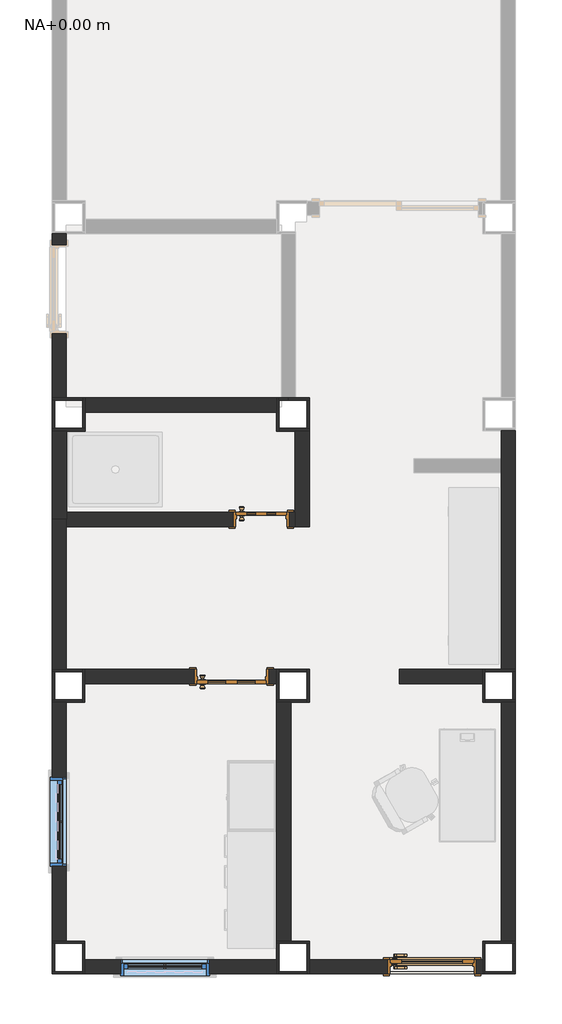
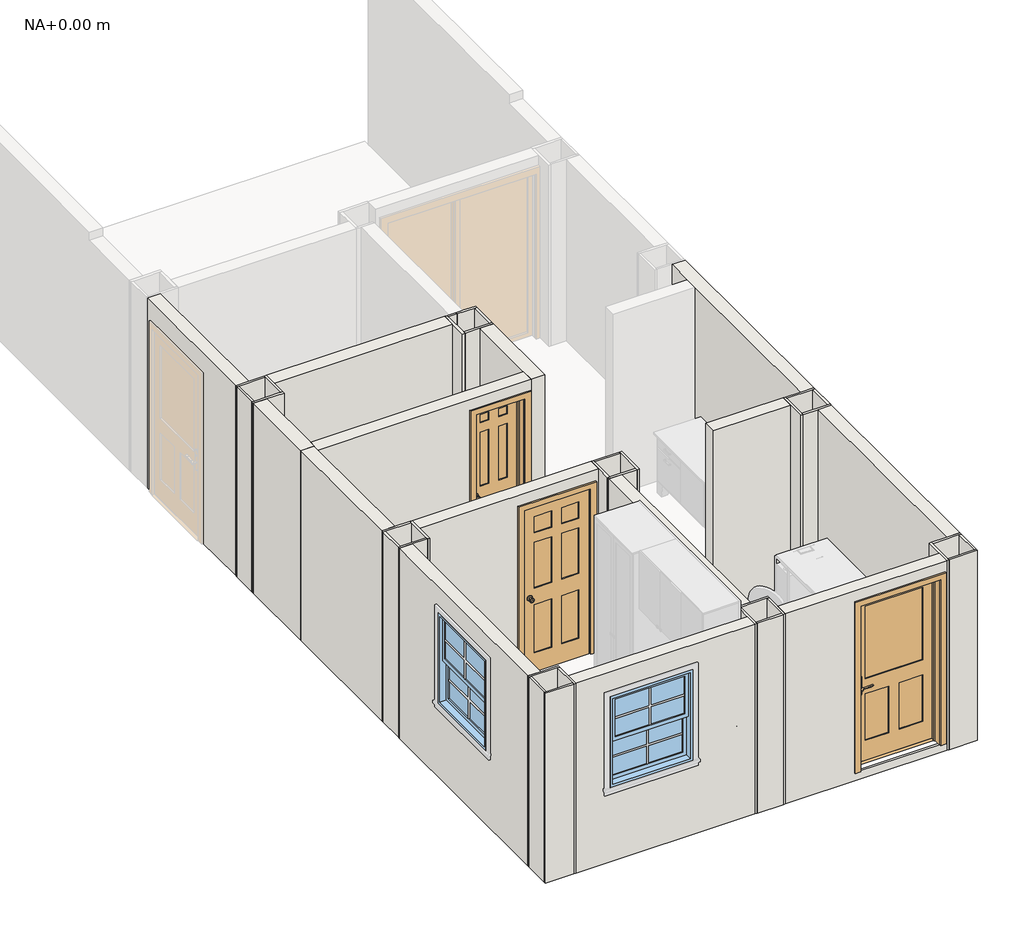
# One storey, part 1 of 2: 47 walls, 3 doors, 2 windows.
"""IFC4 building model written with IfcOpenShell, lengths in millimetres."""

from ifc_helpers import new_model, si_unit, frame, origin, origin_with_axes, place, context, project, spatial, polyline, outline, extrude, faceted_brep, transform, mapped, element, save
from components import door_750_x_2400mm_4532b83f, m_puerta_interior_simple_6_paneles_madera_550_x_2000mm_e46cda8c, m_puerta_interior_simple_6_paneles_madera_750_x_2000mm_028ab884, m_ventana_dos_hojas_500_x_800mm_5dca547a

model = new_model("IFC4")

# Units and contexts
model_context = context("Model", 3, world=origin())
ifc_project = project(units=[si_unit("LENGTHUNIT", "METRE", prefix="MILLI")], contexts=[model_context])

# Site, building, storey
site = spatial("IfcSite", under=ifc_project)
building = spatial("IfcBuilding", under=site)
storey = spatial("IfcBuildingStorey", under=building, Name="NA+0.00 m", Elevation=0.0)

# Doors
placement = place(None, origin())
door_750_x_2400mm_shape = door_750_x_2400mm_4532b83f(model_context)
element("IfcDoor", 1, ObjectType="M_Puerta-Exterior-Simple-Entrada-Cristal_plano_mitad-Revest_madera : 750 x 2400mm", at=placement, inside=storey, context=model_context, shape_type="MappedRepresentation", body=[
    mapped(door_750_x_2400mm_shape, transform((2987.3188918, -7084.0117862, 100.0), x_axis=(-1.0, 0.0, 0.0), y_axis=(0.0, -1.0, 0.0), z_axis=(0.0, 0.0, 1.0))),
])
m_puerta_interior_simple_6_paneles_madera_550_x_2000mm_shape = m_puerta_interior_simple_6_paneles_madera_550_x_2000mm_e46cda8c(model_context)
element("IfcDoor", 2, ObjectType="M_Puerta-Interior-Simple-6_paneles-Madera : 550 x 2000mm", at=placement, inside=storey, context=model_context, shape_type="MappedRepresentation", body=[
    mapped(m_puerta_interior_simple_6_paneles_madera_550_x_2000mm_shape, transform((1162.3188918, -2306.5117862, 100.0), x_axis=(1.0, 0.0, 0.0), y_axis=(0.0, 1.0, 0.0), z_axis=(0.0, 0.0, 1.0))),
])
m_puerta_interior_simple_6_paneles_madera_750_x_2000mm_shape = m_puerta_interior_simple_6_paneles_madera_750_x_2000mm_028ab884(model_context)
element("IfcDoor", 3, ObjectType="M_Puerta-Interior-Simple-6_paneles-Madera : 750 x 2000mm", at=placement, inside=storey, context=model_context, shape_type="MappedRepresentation", body=[
    mapped(m_puerta_interior_simple_6_paneles_madera_750_x_2000mm_shape, transform((844.8188918, -3990.3617862, 100.0), x_axis=(1.0, 0.0, 0.0), y_axis=(0.0, 1.0, 0.0), z_axis=(0.0, 0.0, 1.0))),
])

# Walls
element("IfcWall", 4, ObjectType="HECM - Muro Pintura Blanca 2 caras", at=placement, inside=storey, context=model_context, shape_type="Brep", body=[
    faceted_brep([(-922.6811082, -3912.1867862, 0.0), (-922.6811082, -2387.1867862, 0.0), (-922.6811082, -2309.6867862, 0.0), (-922.6811082, -2309.6867862, 2300.0), (-922.6811082, -2387.1867862, 2300.0), (-922.6811082, -3912.1867862, 2300.0), (-1072.6811082, -3912.1867862, 0.0), (-1072.6811082, -3912.1867862, 2300.0), (-1072.6811082, -2309.6867862, 2300.0), (-1072.6811082, -2309.6867862, 0.0)], [[[0, 1, 2, 3, 4, 5]], [[6, 7, 8, 9]], [[2, 1, 0, 6, 9]], [[3, 2, 9, 8]], [[5, 4, 3, 8, 7]], [[0, 5, 7, 6]]]),
])
element("IfcWall", 5, ObjectType="HECM - Muro Pintura Blanca 2 caras", at=placement, inside=storey, context=model_context, shape_type="SweptSolid", body=[
    extrude(outline(polyline([(-6812.1867862, 0.0), (-6812.1867862, 2300.0), (-4262.1867862, 2300.0), (-4262.1867862, 0.0), (-6812.1867862, 0.0)]), holes=[polyline([(-6012.1867862, 2014.4), (-6012.1867862, 914.4), (-5062.1867862, 914.4), (-5062.1867862, 2014.4), (-6012.1867862, 2014.4)])]), frame((-1072.6811082, 0.0, 0.0), z_axis=(1.0, 0.0, 0.0), x_axis=(0.0, 1.0, 0.0)), (0.0, 0.0, 1.0), 150.0),
])
element("IfcWall", 6, ObjectType="HECM - Muro Pintura Blanca 2 caras", at=placement, inside=storey, context=model_context, shape_type="Brep", body=[
    faceted_brep([(3877.3188918, -3912.1867862, 0.0), (3877.3188918, -1362.1867862, 0.0), (3877.3188918, -1362.1867862, 2300.0), (3877.3188918, -3912.1867862, 2300.0), (3727.3188918, -3912.1867862, 0.0), (3727.3188918, -3912.1867862, 2300.0), (3727.3188918, -1814.6867862, 2300.0), (3727.3188918, -1664.6867862, 2300.0), (3727.3188918, -1362.1867862, 2300.0), (3727.3188918, -1362.1867862, 0.0), (3727.3188918, -1664.6867862, 0.0), (3727.3188918, -1814.6867862, 0.0)], [[[0, 1, 2, 3]], [[4, 5, 6, 7, 8, 9, 10, 11]], [[1, 0, 4, 11, 10, 9]], [[3, 2, 8, 7, 6, 5]], [[0, 3, 5, 4]], [[2, 1, 9, 8]]]),
])
element("IfcWall", 7, ObjectType="HECM - Muro Pintura Blanca 2 caras", at=placement, inside=storey, context=model_context, shape_type="SweptSolid", body=[
    extrude(outline(polyline([(3877.3188918, -4262.1867862), (3877.3188918, -6812.1867862), (3727.3188918, -6812.1867862), (3727.3188918, -4262.1867862), (3877.3188918, -4262.1867862)])), origin_with_axes(), (0.0, 0.0, 1.0), 2300.0),
])
element("IfcWall", 8, ObjectType="HECM - Muro Pintura Blanca 2 caras", at=placement, inside=storey, context=model_context, shape_type="SweptSolid", body=[
    extrude(outline(polyline([(1327.3188918, -6812.1867862), (1327.3188918, -4262.1867862), (1477.3188918, -4262.1867862), (1477.3188918, -6812.1867862), (1327.3188918, -6812.1867862)])), origin_with_axes(), (0.0, 0.0, 1.0), 2300.0),
])
element("IfcWall", 9, ObjectType="HECM - Muro Pintura Blanca 2 caras", at=placement, inside=storey, context=model_context, shape_type="SweptSolid", body=[
    extrude(outline(polyline([(0.0, -722.6811082), (0.0, 1327.3188918), (2300.0, 1327.3188918), (2300.0, -722.6811082), (0.0, -722.6811082)]), holes=[polyline([(2014.4, 607.3188918), (914.4, 607.3188918), (914.4, -342.6811082), (2014.4, -342.6811082), (2014.4, 607.3188918)])]), frame((0.0, -7162.1867862, 0.0), z_axis=(0.0, 1.0, 0.0), x_axis=(0.0, 0.0, 1.0)), (0.0, 0.0, 1.0), 150.0),
])
element("IfcWall", 10, ObjectType="HECM - Muro Pintura Blanca 2 caras", at=placement, inside=storey, context=model_context, shape_type="Brep", body=[
    faceted_brep([(1677.3188918, -7162.1867862, 0.0), (3527.3188918, -7162.1867862, 0.0), (3527.3188918, -7162.1867862, 2300.0), (1677.3188918, -7162.1867862, 2300.0), (2512.3188918, -7162.1867862, 100.0), (2512.3188918, -7162.1867862, 2125.0), (3462.3188918, -7162.1867862, 2125.0), (3462.3188918, -7162.1867862, 100.0), (1677.3188918, -7012.1867862, 2300.0), (3527.3188918, -7012.1867862, 2300.0), (3527.3188918, -7012.1867862, 100.0), (3527.3188918, -7012.1867862, 0.0), (3462.3188918, -7012.1867862, 0.0), (3462.3188918, -7012.1867862, 100.0), (3462.3188918, -7012.1867862, 2125.0), (2512.3188918, -7012.1867862, 2125.0), (2512.3188918, -7012.1867862, 100.0), (2512.3188918, -7012.1867862, 0.0), (1677.3188918, -7012.1867862, 0.0), (1677.3188918, -7012.1867862, 100.0), (2512.3188918, -7137.1867862, 0.0), (3462.3188918, -7137.1867862, 0.0), (2512.3188918, -7137.1867862, 100.0), (3462.3188918, -7137.1867862, 100.0)], [[[0, 1, 2, 3], [4, 5, 6, 7]], [[8, 9, 10, 11, 12, 13, 14, 15, 16, 17, 18, 19]], [[1, 0, 18, 17, 20, 21, 12, 11]], [[3, 2, 9, 8]], [[5, 4, 22, 20, 17, 16, 15]], [[6, 5, 15, 14]], [[7, 6, 14, 13, 12, 21, 23]], [[4, 7, 23, 22]], [[0, 3, 8, 19, 18]], [[2, 1, 11, 10, 9]], [[23, 21, 20, 22]]]),
])
element("IfcWall", 11, ObjectType="HECM - Muro Pintura Blanca 2 caras (E)", at=placement, inside=storey, context=model_context, shape_type="SweptSolid", body=[
    extrude(outline(polyline([(2639.8188918, -3912.1867862), (3527.3188918, -3912.1867862), (3527.3188918, -4062.1867862), (2639.8188918, -4062.1867862), (2639.8188918, -3912.1867862)])), origin_with_axes(), (0.0, 0.0, 1.0), 2300.0),
])
element("IfcWall", 12, ObjectType="HECM - Muro Pintura Blanca 2 caras", at=placement, inside=storey, context=model_context, shape_type="Brep", body=[
    faceted_brep([(-722.6811082, -3912.1867862, 2300.0), (1327.3188918, -3912.1867862, 2300.0), (1327.3188918, -3912.1867862, 100.0), (1327.3188918, -3912.1867862, 0.0), (1252.3188918, -3912.1867862, 0.0), (1252.3188918, -3912.1867862, 100.0), (1244.8188918, -3912.1867862, 100.0), (1244.8188918, -3912.1867862, 2125.0), (444.8188918, -3912.1867862, 2125.0), (444.8188918, -3912.1867862, 100.0), (402.3188918, -3912.1867862, 100.0), (402.3188918, -3912.1867862, 0.0), (-722.6811082, -3912.1867862, 0.0), (-722.6811082, -3912.1867862, 100.0), (1327.3188918, -4062.1867862, 2300.0), (-722.6811082, -4062.1867862, 2300.0), (-722.6811082, -4062.1867862, 100.0), (-722.6811082, -4062.1867862, 0.0), (402.3188918, -4062.1867862, 0.0), (402.3188918, -4062.1867862, 100.0), (444.8188918, -4062.1867862, 100.0), (444.8188918, -4062.1867862, 2125.0), (1244.8188918, -4062.1867862, 2125.0), (1244.8188918, -4062.1867862, 100.0), (1252.3188918, -4062.1867862, 100.0), (1252.3188918, -4062.1867862, 0.0), (1327.3188918, -4062.1867862, 0.0), (1327.3188918, -4062.1867862, 100.0)], [[[0, 1, 2, 3, 4, 5, 6, 7, 8, 9, 10, 11, 12, 13]], [[14, 15, 16, 17, 18, 19, 20, 21, 22, 23, 24, 25, 26, 27]], [[17, 12, 11, 18]], [[3, 26, 25, 4]], [[1, 0, 15, 14]], [[7, 6, 23, 22]], [[8, 7, 22, 21]], [[9, 8, 21, 20]], [[12, 17, 16, 15, 0, 13]], [[1, 14, 27, 26, 3, 2]], [[19, 10, 9, 20]], [[5, 24, 23, 6]], [[10, 19, 18, 11]], [[24, 5, 4, 25]]]),
])
element("IfcWall", 13, ObjectType="HECM - Muro Pintura Blanca - enchape baño", at=placement, inside=storey, context=model_context, shape_type="Brep", body=[
    faceted_brep([(1522.3188918, -1367.1867862, 0.0), (1522.3188918, -2387.1867862, 0.0), (1522.3188918, -2387.1867862, 100.0), (1522.3188918, -2387.1867862, 2300.0), (1522.3188918, -2232.1867862, 2300.0), (1522.3188918, -1367.1867862, 2300.0), (1677.3188918, -1367.1867862, 0.0), (1677.3188918, -1367.1867862, 2300.0), (1677.3188918, -2387.1867862, 2300.0), (1677.3188918, -2387.1867862, 0.0)], [[[0, 1, 2, 3, 4, 5]], [[6, 7, 8, 9]], [[1, 0, 6, 9]], [[5, 4, 3, 8, 7]], [[3, 2, 1, 9, 8]], [[0, 5, 7, 6]]]),
])
element("IfcWall", 14, ObjectType="HECM - Muro Pintura Blanca - enchape baño", at=placement, inside=storey, context=model_context, shape_type="Brep", body=[
    faceted_brep([(-917.6811082, -2232.1867862, 2300.0), (1522.3188918, -2232.1867862, 2300.0), (1522.3188918, -2232.1867862, 100.0), (1462.3188918, -2232.1867862, 100.0), (1462.3188918, -2232.1867862, 2125.0), (862.3188918, -2232.1867862, 2125.0), (862.3188918, -2232.1867862, 100.0), (677.3188918, -2232.1867862, 100.0), (677.3188918, -2232.1867862, 0.0), (-917.6811082, -2232.1867862, 0.0), (-922.6811082, -2387.1867862, 2300.0), (-922.6811082, -2387.1867862, 0.0), (-917.6811082, -2387.1867862, 0.0), (677.3188918, -2387.1867862, 0.0), (677.3188918, -2387.1867862, 100.0), (862.3188918, -2387.1867862, 100.0), (862.3188918, -2387.1867862, 2125.0), (1462.3188918, -2387.1867862, 2125.0), (1462.3188918, -2387.1867862, 100.0), (1522.3188918, -2387.1867862, 100.0), (1522.3188918, -2387.1867862, 2300.0), (-922.6811082, -2309.6867862, 0.0), (-917.6811082, -2309.6867862, 0.0), (-917.6811082, -2309.6867862, 2300.0), (-922.6811082, -2309.6867862, 2300.0)], [[[0, 1, 2, 3, 4, 5, 6, 7, 8, 9]], [[10, 11, 12, 13, 14, 15, 16, 17, 18, 19, 20]], [[11, 21, 22, 9, 8, 13, 12]], [[1, 0, 23, 24, 10, 20]], [[1, 20, 19, 2]], [[17, 4, 3, 18]], [[4, 17, 16, 5]], [[5, 16, 15, 6]], [[3, 2, 19, 18]], [[14, 7, 6, 15]], [[7, 14, 13, 8]], [[0, 9, 22, 23]], [[22, 21, 24, 23]], [[11, 10, 24, 21]]]),
])
element("IfcWall", 15, ObjectType="HECM - Acabado de pintura blanca", at=placement, inside=storey, context=model_context, shape_type="Brep", body=[
    faceted_brep([(1452.3188918, -1037.1867862, 0.0), (1652.3188918, -1037.1867862, 0.0), (1677.3188918, -1037.1867862, 0.0), (1677.3188918, -1037.1867862, 2300.0), (1652.3188918, -1037.1867862, 2300.0), (1452.3188918, -1037.1867862, 2300.0), (1452.3188918, -1012.1867862, 0.0), (1452.3188918, -1012.1867862, 2300.0), (1527.3188918, -1012.1867862, 2300.0), (1677.3188918, -1012.1867862, 2300.0), (1677.3188918, -1012.1867862, 0.0), (1527.3188918, -1012.1867862, 0.0)], [[[0, 1, 2, 3, 4, 5]], [[6, 7, 8, 9, 10, 11]], [[2, 1, 0, 6, 11, 10]], [[5, 4, 3, 9, 8, 7]], [[0, 5, 7, 6]], [[3, 2, 10, 9]]]),
])
element("IfcWall", 16, ObjectType="HECM - Acabado de pintura blanca", at=placement, inside=storey, context=model_context, shape_type="SweptSolid", body=[
    extrude(outline(polyline([(1652.3188918, -1337.1867862), (1652.3188918, -1037.1867862), (1677.3188918, -1037.1867862), (1677.3188918, -1337.1867862), (1652.3188918, -1337.1867862)])), origin_with_axes(), (0.0, 0.0, 1.0), 2300.0),
])
element("IfcWall", 17, ObjectType="HECM - Acabado de pintura blanca", at=placement, inside=storey, context=model_context, shape_type="Brep", body=[
    faceted_brep([(-1072.6811082, -3937.1867862, 0.0), (-1047.6811082, -3937.1867862, 0.0), (-747.6811082, -3937.1867862, 0.0), (-747.6811082, -3937.1867862, 2300.0), (-1047.6811082, -3937.1867862, 2300.0), (-1072.6811082, -3937.1867862, 2300.0), (-1072.6811082, -3912.1867862, 0.0), (-1072.6811082, -3912.1867862, 2300.0), (-922.6811082, -3912.1867862, 2300.0), (-747.6811082, -3912.1867862, 2300.0), (-747.6811082, -3912.1867862, 0.0), (-922.6811082, -3912.1867862, 0.0)], [[[0, 1, 2, 3, 4, 5]], [[6, 7, 8, 9, 10, 11]], [[2, 1, 0, 6, 11, 10]], [[5, 4, 3, 9, 8, 7]], [[0, 5, 7, 6]], [[3, 2, 10, 9]]]),
])
element("IfcWall", 18, ObjectType="HECM - Acabado de pintura blanca", at=placement, inside=storey, context=model_context, shape_type="Brep", body=[
    faceted_brep([(-747.6811082, -3912.1867862, 0.0), (-747.6811082, -3937.1867862, 0.0), (-747.6811082, -4237.1867862, 0.0), (-747.6811082, -4262.1867862, 0.0), (-747.6811082, -4262.1867862, 2300.0), (-747.6811082, -4237.1867862, 2300.0), (-747.6811082, -3937.1867862, 2300.0), (-747.6811082, -3912.1867862, 2300.0), (-722.6811082, -3912.1867862, 0.0), (-722.6811082, -3912.1867862, 2300.0), (-722.6811082, -4062.1867862, 2300.0), (-722.6811082, -4262.1867862, 2300.0), (-722.6811082, -4262.1867862, 0.0), (-722.6811082, -4062.1867862, 0.0)], [[[0, 1, 2, 3, 4, 5, 6, 7]], [[8, 9, 10, 11, 12, 13]], [[3, 2, 1, 0, 8, 13, 12]], [[7, 6, 5, 4, 11, 10, 9]], [[0, 7, 9, 8]], [[4, 3, 12, 11]]]),
])
element("IfcWall", 19, ObjectType="HECM - Acabado de pintura blanca", at=placement, inside=storey, context=model_context, shape_type="Brep", body=[
    faceted_brep([(-747.6811082, -4237.1867862, 0.0), (-1047.6811082, -4237.1867862, 0.0), (-1072.6811082, -4237.1867862, 0.0), (-1072.6811082, -4237.1867862, 2300.0), (-1047.6811082, -4237.1867862, 2300.0), (-747.6811082, -4237.1867862, 2300.0), (-747.6811082, -4262.1867862, 0.0), (-747.6811082, -4262.1867862, 2300.0), (-922.6811082, -4262.1867862, 2300.0), (-1072.6811082, -4262.1867862, 2300.0), (-1072.6811082, -4262.1867862, 0.0), (-922.6811082, -4262.1867862, 0.0)], [[[0, 1, 2, 3, 4, 5]], [[6, 7, 8, 9, 10, 11]], [[2, 1, 0, 6, 11, 10]], [[5, 4, 3, 9, 8, 7]], [[3, 2, 10, 9]], [[0, 5, 7, 6]]]),
])
element("IfcWall", 20, ObjectType="HECM - Acabado de pintura blanca", at=placement, inside=storey, context=model_context, shape_type="Brep", body=[
    faceted_brep([(-1072.6811082, -6837.1867862, 0.0), (-1047.6811082, -6837.1867862, 0.0), (-747.6811082, -6837.1867862, 0.0), (-722.6811082, -6837.1867862, 0.0), (-722.6811082, -6837.1867862, 2300.0), (-747.6811082, -6837.1867862, 2300.0), (-1047.6811082, -6837.1867862, 2300.0), (-1072.6811082, -6837.1867862, 2300.0), (-1072.6811082, -6812.1867862, 0.0), (-1072.6811082, -6812.1867862, 2300.0), (-922.6811082, -6812.1867862, 2300.0), (-722.6811082, -6812.1867862, 2300.0), (-722.6811082, -6812.1867862, 0.0), (-922.6811082, -6812.1867862, 0.0)], [[[0, 1, 2, 3, 4, 5, 6, 7]], [[8, 9, 10, 11, 12, 13]], [[3, 2, 1, 0, 8, 13, 12]], [[7, 6, 5, 4, 11, 10, 9]], [[0, 7, 9, 8]], [[4, 3, 12, 11]]]),
])
element("IfcWall", 21, ObjectType="HECM - Acabado de pintura blanca", at=placement, inside=storey, context=model_context, shape_type="Brep", body=[
    faceted_brep([(-747.6811082, -6837.1867862, 0.0), (-747.6811082, -7137.1867862, 0.0), (-747.6811082, -7162.1867862, 0.0), (-747.6811082, -7162.1867862, 2300.0), (-747.6811082, -7137.1867862, 2300.0), (-747.6811082, -6837.1867862, 2300.0), (-722.6811082, -6837.1867862, 0.0), (-722.6811082, -6837.1867862, 2300.0), (-722.6811082, -7012.1867862, 2300.0), (-722.6811082, -7162.1867862, 2300.0), (-722.6811082, -7162.1867862, 0.0), (-722.6811082, -7012.1867862, 0.0)], [[[0, 1, 2, 3, 4, 5]], [[6, 7, 8, 9, 10, 11]], [[2, 1, 0, 6, 11, 10]], [[5, 4, 3, 9, 8, 7]], [[3, 2, 10, 9]], [[0, 5, 7, 6]]]),
])
element("IfcWall", 22, ObjectType="HECM - Acabado de pintura blanca", at=placement, inside=storey, context=model_context, shape_type="Brep", body=[
    faceted_brep([(1352.3188918, -7162.1867862, 0.0), (1352.3188918, -7137.1867862, 0.0), (1352.3188918, -6837.1867862, 0.0), (1352.3188918, -6837.1867862, 2300.0), (1352.3188918, -7137.1867862, 2300.0), (1352.3188918, -7162.1867862, 2300.0), (1327.3188918, -7162.1867862, 0.0), (1327.3188918, -7162.1867862, 2300.0), (1327.3188918, -7012.1867862, 2300.0), (1327.3188918, -6837.1867862, 2300.0), (1327.3188918, -6837.1867862, 0.0), (1327.3188918, -7012.1867862, 0.0)], [[[0, 1, 2, 3, 4, 5]], [[6, 7, 8, 9, 10, 11]], [[2, 1, 0, 6, 11, 10]], [[5, 4, 3, 9, 8, 7]], [[0, 5, 7, 6]], [[3, 2, 10, 9]]]),
])
element("IfcWall", 23, ObjectType="HECM - Acabado de pintura blanca", at=placement, inside=storey, context=model_context, shape_type="Brep", body=[
    faceted_brep([(1327.3188918, -6837.1867862, 0.0), (1352.3188918, -6837.1867862, 0.0), (1652.3188918, -6837.1867862, 0.0), (1677.3188918, -6837.1867862, 0.0), (1677.3188918, -6837.1867862, 2300.0), (1652.3188918, -6837.1867862, 2300.0), (1352.3188918, -6837.1867862, 2300.0), (1327.3188918, -6837.1867862, 2300.0), (1327.3188918, -6812.1867862, 0.0), (1327.3188918, -6812.1867862, 2300.0), (1477.3188918, -6812.1867862, 2300.0), (1677.3188918, -6812.1867862, 2300.0), (1677.3188918, -6812.1867862, 0.0), (1477.3188918, -6812.1867862, 0.0)], [[[0, 1, 2, 3, 4, 5, 6, 7]], [[8, 9, 10, 11, 12, 13]], [[3, 2, 1, 0, 8, 13, 12]], [[7, 6, 5, 4, 11, 10, 9]], [[0, 7, 9, 8]], [[4, 3, 12, 11]]]),
])
element("IfcWall", 24, ObjectType="HECM - Acabado de pintura blanca", at=placement, inside=storey, context=model_context, shape_type="Brep", body=[
    faceted_brep([(1652.3188918, -6837.1867862, 0.0), (1652.3188918, -7137.1867862, 0.0), (1652.3188918, -7162.1867862, 0.0), (1652.3188918, -7162.1867862, 2300.0), (1652.3188918, -7137.1867862, 2300.0), (1652.3188918, -6837.1867862, 2300.0), (1677.3188918, -6837.1867862, 0.0), (1677.3188918, -6837.1867862, 2300.0), (1677.3188918, -7012.1867862, 2300.0), (1677.3188918, -7162.1867862, 2300.0), (1677.3188918, -7162.1867862, 0.0), (1677.3188918, -7012.1867862, 0.0)], [[[0, 1, 2, 3, 4, 5]], [[6, 7, 8, 9, 10, 11]], [[2, 1, 0, 6, 11, 10]], [[5, 4, 3, 9, 8, 7]], [[3, 2, 10, 9]], [[0, 5, 7, 6]]]),
])
element("IfcWall", 25, ObjectType="HECM - Acabado de pintura blanca", at=placement, inside=storey, context=model_context, shape_type="Brep", body=[
    faceted_brep([(3552.3188918, -7162.1867862, 0.0), (3552.3188918, -7137.1867862, 0.0), (3552.3188918, -6837.1867862, 0.0), (3552.3188918, -6812.1867862, 0.0), (3552.3188918, -6812.1867862, 2300.0), (3552.3188918, -6837.1867862, 2300.0), (3552.3188918, -7137.1867862, 2300.0), (3552.3188918, -7162.1867862, 2300.0), (3527.3188918, -7162.1867862, 0.0), (3527.3188918, -7162.1867862, 2300.0), (3527.3188918, -7012.1867862, 2300.0), (3527.3188918, -6812.1867862, 2300.0), (3527.3188918, -6812.1867862, 0.0), (3527.3188918, -7012.1867862, 0.0)], [[[0, 1, 2, 3, 4, 5, 6, 7]], [[8, 9, 10, 11, 12, 13]], [[3, 2, 1, 0, 8, 13, 12]], [[7, 6, 5, 4, 11, 10, 9]], [[0, 7, 9, 8]], [[4, 3, 12, 11]]]),
])
element("IfcWall", 26, ObjectType="HECM - Acabado de pintura blanca", at=placement, inside=storey, context=model_context, shape_type="Brep", body=[
    faceted_brep([(3552.3188918, -6837.1867862, 0.0), (3852.3188918, -6837.1867862, 0.0), (3877.3188918, -6837.1867862, 0.0), (3877.3188918, -6837.1867862, 2300.0), (3852.3188918, -6837.1867862, 2300.0), (3552.3188918, -6837.1867862, 2300.0), (3552.3188918, -6812.1867862, 0.0), (3552.3188918, -6812.1867862, 2300.0), (3727.3188918, -6812.1867862, 2300.0), (3877.3188918, -6812.1867862, 2300.0), (3877.3188918, -6812.1867862, 0.0), (3727.3188918, -6812.1867862, 0.0)], [[[0, 1, 2, 3, 4, 5]], [[6, 7, 8, 9, 10, 11]], [[2, 1, 0, 6, 11, 10]], [[5, 4, 3, 9, 8, 7]], [[3, 2, 10, 9]], [[0, 5, 7, 6]]]),
])
element("IfcWall", 27, ObjectType="HECM - Acabado de pintura blanca", at=placement, inside=storey, context=model_context, shape_type="Brep", body=[
    faceted_brep([(1352.3188918, -4237.1867862, 0.0), (1352.3188918, -3937.1867862, 0.0), (1352.3188918, -3912.1867862, 0.0), (1352.3188918, -3912.1867862, 2300.0), (1352.3188918, -3937.1867862, 2300.0), (1352.3188918, -4237.1867862, 2300.0), (1327.3188918, -4237.1867862, 0.0), (1327.3188918, -4237.1867862, 2300.0), (1327.3188918, -4062.1867862, 2300.0), (1327.3188918, -3912.1867862, 2300.0), (1327.3188918, -3912.1867862, 0.0), (1327.3188918, -4062.1867862, 0.0)], [[[0, 1, 2, 3, 4, 5]], [[6, 7, 8, 9, 10, 11]], [[2, 1, 0, 6, 11, 10]], [[5, 4, 3, 9, 8, 7]], [[3, 2, 10, 9]], [[0, 5, 7, 6]]]),
])
element("IfcWall", 28, ObjectType="HECM - Acabado de pintura blanca", at=placement, inside=storey, context=model_context, shape_type="SweptSolid", body=[
    extrude(outline(polyline([(1652.3188918, -3937.1867862), (1352.3188918, -3937.1867862), (1352.3188918, -3912.1867862), (1652.3188918, -3912.1867862), (1652.3188918, -3937.1867862)])), origin_with_axes(), (0.0, 0.0, 1.0), 2300.0),
])
element("IfcWall", 29, ObjectType="HECM - Acabado de pintura blanca", at=placement, inside=storey, context=model_context, shape_type="Brep", body=[
    faceted_brep([(1652.3188918, -3912.1867862, 0.0), (1652.3188918, -3937.1867862, 0.0), (1652.3188918, -4237.1867862, 0.0), (1652.3188918, -4262.1867862, 0.0), (1652.3188918, -4262.1867862, 2300.0), (1652.3188918, -4237.1867862, 2300.0), (1652.3188918, -3937.1867862, 2300.0), (1652.3188918, -3912.1867862, 2300.0), (1677.3188918, -3912.1867862, 0.0), (1677.3188918, -3912.1867862, 2300.0), (1677.3188918, -4262.1867862, 2300.0), (1677.3188918, -4262.1867862, 0.0)], [[[0, 1, 2, 3, 4, 5, 6, 7]], [[8, 9, 10, 11]], [[3, 2, 1, 0, 8, 11]], [[7, 6, 5, 4, 10, 9]], [[0, 7, 9, 8]], [[4, 3, 11, 10]]]),
])
element("IfcWall", 30, ObjectType="HECM - Acabado de pintura blanca", at=placement, inside=storey, context=model_context, shape_type="Brep", body=[
    faceted_brep([(1652.3188918, -4237.1867862, 0.0), (1352.3188918, -4237.1867862, 0.0), (1327.3188918, -4237.1867862, 0.0), (1327.3188918, -4237.1867862, 2300.0), (1352.3188918, -4237.1867862, 2300.0), (1652.3188918, -4237.1867862, 2300.0), (1652.3188918, -4262.1867862, 0.0), (1652.3188918, -4262.1867862, 2300.0), (1477.3188918, -4262.1867862, 2300.0), (1327.3188918, -4262.1867862, 2300.0), (1327.3188918, -4262.1867862, 0.0), (1477.3188918, -4262.1867862, 0.0)], [[[0, 1, 2, 3, 4, 5]], [[6, 7, 8, 9, 10, 11]], [[2, 1, 0, 6, 11, 10]], [[5, 4, 3, 9, 8, 7]], [[3, 2, 10, 9]], [[0, 5, 7, 6]]]),
])
element("IfcWall", 31, ObjectType="HECM - Acabado de pintura blanca", at=placement, inside=storey, context=model_context, shape_type="Brep", body=[
    faceted_brep([(3552.3188918, -3937.1867862, 0.0), (3852.3188918, -3937.1867862, 0.0), (3877.3188918, -3937.1867862, 0.0), (3877.3188918, -3937.1867862, 2300.0), (3852.3188918, -3937.1867862, 2300.0), (3552.3188918, -3937.1867862, 2300.0), (3552.3188918, -3912.1867862, 0.0), (3552.3188918, -3912.1867862, 2300.0), (3727.3188918, -3912.1867862, 2300.0), (3877.3188918, -3912.1867862, 2300.0), (3877.3188918, -3912.1867862, 0.0), (3727.3188918, -3912.1867862, 0.0)], [[[0, 1, 2, 3, 4, 5]], [[6, 7, 8, 9, 10, 11]], [[2, 1, 0, 6, 11, 10]], [[5, 4, 3, 9, 8, 7]], [[3, 2, 10, 9]], [[0, 5, 7, 6]]]),
])
element("IfcWall", 32, ObjectType="HECM - Acabado de pintura blanca", at=placement, inside=storey, context=model_context, shape_type="Brep", body=[
    faceted_brep([(3527.3188918, -3912.1867862, 0.0), (3527.3188918, -4062.1867862, 0.0), (3527.3188918, -4262.1867862, 0.0), (3527.3188918, -4262.1867862, 2300.0), (3527.3188918, -4062.1867862, 2300.0), (3527.3188918, -3912.1867862, 2300.0), (3552.3188918, -3912.1867862, 0.0), (3552.3188918, -3912.1867862, 2300.0), (3552.3188918, -3937.1867862, 2300.0), (3552.3188918, -4237.1867862, 2300.0), (3552.3188918, -4262.1867862, 2300.0), (3552.3188918, -4262.1867862, 0.0), (3552.3188918, -4237.1867862, 0.0), (3552.3188918, -3937.1867862, 0.0)], [[[0, 1, 2, 3, 4, 5]], [[6, 7, 8, 9, 10, 11, 12, 13]], [[2, 1, 0, 6, 13, 12, 11]], [[5, 4, 3, 10, 9, 8, 7]], [[0, 5, 7, 6]], [[3, 2, 11, 10]]]),
])
element("IfcWall", 33, ObjectType="HECM - Acabado de pintura blanca", at=placement, inside=storey, context=model_context, shape_type="Brep", body=[
    faceted_brep([(3552.3188918, -4262.1867862, 0.0), (3727.3188918, -4262.1867862, 0.0), (3877.3188918, -4262.1867862, 0.0), (3877.3188918, -4262.1867862, 2300.0), (3727.3188918, -4262.1867862, 2300.0), (3552.3188918, -4262.1867862, 2300.0), (3552.3188918, -4237.1867862, 0.0), (3552.3188918, -4237.1867862, 2300.0), (3852.3188918, -4237.1867862, 2300.0), (3877.3188918, -4237.1867862, 2300.0), (3877.3188918, -4237.1867862, 0.0), (3852.3188918, -4237.1867862, 0.0)], [[[0, 1, 2, 3, 4, 5]], [[6, 7, 8, 9, 10, 11]], [[2, 1, 0, 6, 11, 10]], [[5, 4, 3, 9, 8, 7]], [[3, 2, 10, 9]], [[0, 5, 7, 6]]]),
])
element("IfcWall", 34, ObjectType="HECM - Muro Fachada - Pintura Blanca", at=placement, inside=storey, context=model_context, shape_type="SweptSolid", body=[
    extrude(outline(polyline([(-1012.1867862, 2300.0), (737.8132138, 2300.0), (737.8132138, 0.0), (622.8132138, 0.0), (622.8132138, 2025.0), (-327.1867862, 2025.0), (-327.1867862, 0.0), (-1012.1867862, 0.0), (-1012.1867862, 2300.0)])), frame((-1072.6811082, 0.0, 0.0), z_axis=(1.0, 0.0, 0.0), x_axis=(0.0, 1.0, 0.0)), (0.0, 0.0, 1.0), 150.0),
])
element("IfcWall", 35, ObjectType="HECM - Muro Pintura Blanca - enchape baño", at=placement, inside=storey, context=model_context, shape_type="SweptSolid", body=[
    extrude(outline(polyline([(1322.3188918, -1167.1867862), (-717.6811082, -1167.1867862), (-717.6811082, -1012.1867862), (1322.3188918, -1012.1867862), (1322.3188918, -1167.1867862)])), origin_with_axes(), (0.0, 0.0, 1.0), 2300.0),
])
element("IfcWall", 36, ObjectType="HECM - Acabado de pintura blanca", at=placement, inside=storey, context=model_context, shape_type="SweptSolid", body=[
    extrude(outline(polyline([(3877.3188918, -3937.1867862), (3877.3188918, -4237.1867862), (3852.3188918, -4237.1867862), (3852.3188918, -3937.1867862), (3877.3188918, -3937.1867862)])), origin_with_axes(), (0.0, 0.0, 1.0), 2300.0),
])
element("IfcWall", 37, ObjectType="HECM - Acabado de pintura blanca", at=placement, inside=storey, context=model_context, shape_type="Brep", body=[
    faceted_brep([(3552.3188918, -7162.1867862, 0.0), (3877.3188918, -7162.1867862, 0.0), (3877.3188918, -7162.1867862, 2300.0), (3552.3188918, -7162.1867862, 2300.0), (3552.3188918, -7137.1867862, 0.0), (3552.3188918, -7137.1867862, 2300.0), (3852.3188918, -7137.1867862, 2300.0), (3877.3188918, -7137.1867862, 2300.0), (3877.3188918, -7137.1867862, 0.0), (3852.3188918, -7137.1867862, 0.0)], [[[0, 1, 2, 3]], [[4, 5, 6, 7, 8, 9]], [[1, 0, 4, 9, 8]], [[3, 2, 7, 6, 5]], [[0, 3, 5, 4]], [[2, 1, 8, 7]]]),
])
element("IfcWall", 38, ObjectType="HECM - Acabado de pintura blanca", at=placement, inside=storey, context=model_context, shape_type="SweptSolid", body=[
    extrude(outline(polyline([(3877.3188918, -6837.1867862), (3877.3188918, -7137.1867862), (3852.3188918, -7137.1867862), (3852.3188918, -6837.1867862), (3877.3188918, -6837.1867862)])), origin_with_axes(), (0.0, 0.0, 1.0), 2300.0),
])
element("IfcWall", 39, ObjectType="HECM - Acabado de pintura blanca", at=placement, inside=storey, context=model_context, shape_type="Brep", body=[
    faceted_brep([(-747.6811082, -7137.1867862, 0.0), (-1047.6811082, -7137.1867862, 0.0), (-1072.6811082, -7137.1867862, 0.0), (-1072.6811082, -7137.1867862, 2300.0), (-1047.6811082, -7137.1867862, 2300.0), (-747.6811082, -7137.1867862, 2300.0), (-747.6811082, -7162.1867862, 0.0), (-747.6811082, -7162.1867862, 2300.0), (-1072.6811082, -7162.1867862, 2300.0), (-1072.6811082, -7162.1867862, 0.0)], [[[0, 1, 2, 3, 4, 5]], [[6, 7, 8, 9]], [[2, 1, 0, 6, 9]], [[5, 4, 3, 8, 7]], [[0, 5, 7, 6]], [[3, 2, 9, 8]]]),
])
element("IfcWall", 40, ObjectType="HECM - Acabado de pintura blanca", at=placement, inside=storey, context=model_context, shape_type="SweptSolid", body=[
    extrude(outline(polyline([(-1047.6811082, -6837.1867862), (-1047.6811082, -7137.1867862), (-1072.6811082, -7137.1867862), (-1072.6811082, -6837.1867862), (-1047.6811082, -6837.1867862)])), origin_with_axes(), (0.0, 0.0, 1.0), 2300.0),
])
element("IfcWall", 41, ObjectType="HECM - Acabado de pintura blanca", at=placement, inside=storey, context=model_context, shape_type="SweptSolid", body=[
    extrude(outline(polyline([(1352.3188918, -7137.1867862), (1652.3188918, -7137.1867862), (1652.3188918, -7162.1867862), (1352.3188918, -7162.1867862), (1352.3188918, -7137.1867862)])), origin_with_axes(), (0.0, 0.0, 1.0), 2300.0),
])
element("IfcWall", 42, ObjectType="HECM - Acabado de pintura blanca", at=placement, inside=storey, context=model_context, shape_type="SweptSolid", body=[
    extrude(outline(polyline([(-1047.6811082, -3937.1867862), (-1047.6811082, -4237.1867862), (-1072.6811082, -4237.1867862), (-1072.6811082, -3937.1867862), (-1047.6811082, -3937.1867862)])), origin_with_axes(), (0.0, 0.0, 1.0), 2300.0),
])
element("IfcWall", 43, ObjectType="HECM - Acabado de pintura blanca", at=placement, inside=storey, context=model_context, shape_type="SweptSolid", body=[
    extrude(outline(polyline([(-1047.6811082, -1037.1867862), (-1047.6811082, -1337.1867862), (-1072.6811082, -1337.1867862), (-1072.6811082, -1037.1867862), (-1047.6811082, -1037.1867862)])), origin_with_axes(), (0.0, 0.0, 1.0), 2300.0),
])
element("IfcWall", 44, ObjectType="HECM - Acabado de pintura blanca", at=placement, inside=storey, context=model_context, shape_type="Brep", body=[
    faceted_brep([(-1072.6811082, -1037.1867862, 0.0), (-1047.6811082, -1037.1867862, 0.0), (-747.6811082, -1037.1867862, 0.0), (-747.6811082, -1037.1867862, 2300.0), (-1047.6811082, -1037.1867862, 2300.0), (-1072.6811082, -1037.1867862, 2300.0), (-1072.6811082, -1012.1867862, 0.0), (-1072.6811082, -1012.1867862, 2300.0), (-922.6811082, -1012.1867862, 2300.0), (-747.6811082, -1012.1867862, 2300.0), (-747.6811082, -1012.1867862, 0.0), (-922.6811082, -1012.1867862, 0.0)], [[[0, 1, 2, 3, 4, 5]], [[6, 7, 8, 9, 10, 11]], [[2, 1, 0, 6, 11, 10]], [[5, 4, 3, 9, 8, 7]], [[0, 5, 7, 6]], [[3, 2, 10, 9]]]),
])
element("IfcWall", 45, ObjectType="HECM - Acabado de pintura blanca", at=placement, inside=storey, context=model_context, shape_type="Brep", body=[
    faceted_brep([(1452.3188918, -1012.1867862, 0.0), (1377.3188918, -1012.1867862, 0.0), (1352.3188918, -1012.1867862, 0.0), (1352.3188918, -1012.1867862, 2300.0), (1377.3188918, -1012.1867862, 2300.0), (1452.3188918, -1012.1867862, 2300.0), (1452.3188918, -1037.1867862, 0.0), (1452.3188918, -1037.1867862, 2300.0), (1352.3188918, -1037.1867862, 2300.0), (1352.3188918, -1037.1867862, 0.0)], [[[0, 1, 2, 3, 4, 5]], [[6, 7, 8, 9]], [[2, 1, 0, 6, 9]], [[5, 4, 3, 8, 7]], [[0, 5, 7, 6]], [[3, 2, 9, 8]]]),
])
element("IfcWall", 46, ObjectType="HECM - Muro Pintura Blanca - enchape baño", at=placement, inside=storey, context=model_context, shape_type="Brep", body=[
    faceted_brep([(-917.6811082, -2309.6867862, 0.0), (-917.6811082, -2232.1867862, 0.0), (-917.6811082, -1367.1867862, 0.0), (-917.6811082, -1367.1867862, 2300.0), (-917.6811082, -2232.1867862, 2300.0), (-917.6811082, -2309.6867862, 2300.0), (-1072.6811082, -2309.6867862, 0.0), (-1072.6811082, -2309.6867862, 2300.0), (-1072.6811082, -1367.1867862, 2300.0), (-1072.6811082, -1367.1867862, 0.0), (-922.6811082, -2309.6867862, 0.0), (-922.6811082, -2309.6867862, 2300.0)], [[[0, 1, 2, 3, 4, 5]], [[6, 7, 8, 9]], [[2, 1, 0, 10, 6, 9]], [[5, 4, 3, 8, 7, 11]], [[0, 5, 11, 7, 6, 10]], [[3, 2, 9, 8]]]),
])
element("IfcWall", 47, ObjectType="HECM - Enchape baño", at=placement, inside=storey, context=model_context, shape_type="Brep", body=[
    faceted_brep([(-1072.6811082, -1367.1867862, 0.0), (-917.6811082, -1367.1867862, 0.0), (-717.6811082, -1367.1867862, 0.0), (-717.6811082, -1367.1867862, 2300.0), (-917.6811082, -1367.1867862, 2300.0), (-1072.6811082, -1367.1867862, 2300.0), (-1072.6811082, -1337.1867862, 0.0), (-1072.6811082, -1337.1867862, 2300.0), (-1047.6811082, -1337.1867862, 2300.0), (-747.6811082, -1337.1867862, 2300.0), (-717.6811082, -1337.1867862, 2300.0), (-717.6811082, -1337.1867862, 0.0), (-747.6811082, -1337.1867862, 0.0), (-1047.6811082, -1337.1867862, 0.0)], [[[0, 1, 2, 3, 4, 5]], [[6, 7, 8, 9, 10, 11, 12, 13]], [[2, 1, 0, 6, 13, 12, 11]], [[5, 4, 3, 10, 9, 8, 7]], [[0, 5, 7, 6]], [[3, 2, 11, 10]]]),
])
element("IfcWall", 48, ObjectType="HECM - Enchape baño", at=placement, inside=storey, context=model_context, shape_type="Brep", body=[
    faceted_brep([(-717.6811082, -1337.1867862, 0.0), (-717.6811082, -1167.1867862, 0.0), (-717.6811082, -1012.1867862, 0.0), (-717.6811082, -1012.1867862, 2300.0), (-717.6811082, -1167.1867862, 2300.0), (-717.6811082, -1337.1867862, 2300.0), (-747.6811082, -1337.1867862, 0.0), (-747.6811082, -1337.1867862, 2300.0), (-747.6811082, -1037.1867862, 2300.0), (-747.6811082, -1012.1867862, 2300.0), (-747.6811082, -1012.1867862, 0.0), (-747.6811082, -1037.1867862, 0.0)], [[[0, 1, 2, 3, 4, 5]], [[6, 7, 8, 9, 10, 11]], [[2, 1, 0, 6, 11, 10]], [[5, 4, 3, 9, 8, 7]], [[3, 2, 10, 9]], [[0, 5, 7, 6]]]),
])
element("IfcWall", 49, ObjectType="HECM - Enchape baño", at=placement, inside=storey, context=model_context, shape_type="Brep", body=[
    faceted_brep([(1322.3188918, -1012.1867862, 0.0), (1322.3188918, -1167.1867862, 0.0), (1322.3188918, -1367.1867862, 0.0), (1322.3188918, -1367.1867862, 2300.0), (1322.3188918, -1167.1867862, 2300.0), (1322.3188918, -1012.1867862, 2300.0), (1352.3188918, -1012.1867862, 0.0), (1352.3188918, -1012.1867862, 2300.0), (1352.3188918, -1037.1867862, 2300.0), (1352.3188918, -1337.1867862, 2300.0), (1352.3188918, -1367.1867862, 2300.0), (1352.3188918, -1367.1867862, 0.0), (1352.3188918, -1337.1867862, 0.0), (1352.3188918, -1037.1867862, 0.0)], [[[0, 1, 2, 3, 4, 5]], [[6, 7, 8, 9, 10, 11, 12, 13]], [[2, 1, 0, 6, 13, 12, 11]], [[5, 4, 3, 10, 9, 8, 7]], [[3, 2, 11, 10]], [[0, 5, 7, 6]]]),
])
element("IfcWall", 50, ObjectType="HECM - Enchape baño", at=placement, inside=storey, context=model_context, shape_type="Brep", body=[
    faceted_brep([(1352.3188918, -1367.1867862, 0.0), (1522.3188918, -1367.1867862, 0.0), (1677.3188918, -1367.1867862, 0.0), (1677.3188918, -1367.1867862, 2300.0), (1522.3188918, -1367.1867862, 2300.0), (1352.3188918, -1367.1867862, 2300.0), (1352.3188918, -1337.1867862, 0.0), (1352.3188918, -1337.1867862, 2300.0), (1652.3188918, -1337.1867862, 2300.0), (1677.3188918, -1337.1867862, 2300.0), (1677.3188918, -1337.1867862, 0.0), (1652.3188918, -1337.1867862, 0.0)], [[[0, 1, 2, 3, 4, 5]], [[6, 7, 8, 9, 10, 11]], [[2, 1, 0, 6, 11, 10]], [[5, 4, 3, 9, 8, 7]], [[3, 2, 10, 9]], [[0, 5, 7, 6]]]),
])

# Windows
m_ventana_dos_hojas_500_x_800mm_shape = m_ventana_dos_hojas_500_x_800mm_5dca547a(model_context)
element("IfcWindow", 51, ObjectType="M_Ventana-Dos hojas : 500 x 800mm", at=placement, inside=storey, context=model_context, shape_type="MappedRepresentation", body=[
    mapped(m_ventana_dos_hojas_500_x_800mm_shape, transform((-997.6811082, -5537.1867862, 0.0), x_axis=(0.0, 1.0, 0.0), y_axis=(-1.0, 0.0, 0.0), z_axis=(0.0, 0.0, 1.0))),
])
element("IfcWindow", 52, ObjectType="M_Ventana-Dos hojas : 650 x 1100mm", at=placement, inside=storey, context=model_context, shape_type="MappedRepresentation", body=[
    mapped(m_ventana_dos_hojas_500_x_800mm_shape, transform((132.3188918, -7087.1867862, 0.0), x_axis=(-1.0, 0.0, 0.0), y_axis=(0.0, -1.0, 0.0), z_axis=(0.0, 0.0, 1.0))),
])

save(model, "model.ifc")
